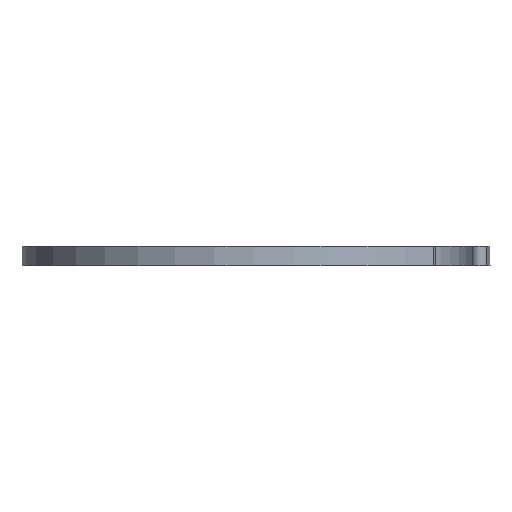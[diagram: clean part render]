
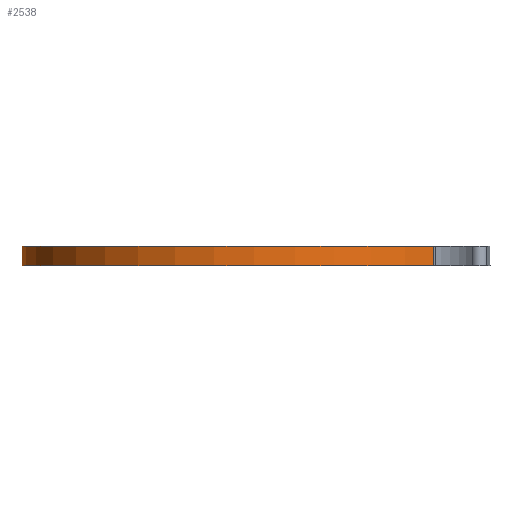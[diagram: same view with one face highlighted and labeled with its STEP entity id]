
A CAD part, left-side view. The second image highlights one B-rep face of the part: STEP entity #2538.
In plain terms, the highlighted cylindrical face has radius 61 mm (diameter 122 mm), a partial arc.
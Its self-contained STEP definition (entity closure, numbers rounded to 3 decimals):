
#396=CARTESIAN_POINT('',(0.,0.,0.));
#397=DIRECTION('',(0.,0.,1.));
#398=DIRECTION('',(0.653,-0.758,0.));
#399=AXIS2_PLACEMENT_3D('',#396,#397,#398);
#719=CARTESIAN_POINT('',(0.,0.,5.));
#720=DIRECTION('',(0.,0.,-1.));
#721=DIRECTION('',(-0.653,-0.758,0.));
#722=AXIS2_PLACEMENT_3D('',#719,#720,#721);
#1019=DIRECTION('',(0.,0.,-1.));
#1020=VECTOR('',#1019,5.);
#1021=CARTESIAN_POINT('',(-39.805,-46.223,5.));
#1022=LINE('',#1021,#1020);
#1033=DIRECTION('',(0.,0.,-1.));
#1034=VECTOR('',#1033,5.);
#1035=CARTESIAN_POINT('',(39.805,-46.223,5.));
#1036=LINE('',#1035,#1034);
#1947=CARTESIAN_POINT('',(-39.805,-46.223,0.));
#1948=VERTEX_POINT('',#1947);
#1949=CARTESIAN_POINT('',(39.805,-46.223,0.));
#1950=VERTEX_POINT('',#1949);
#1997=CARTESIAN_POINT('',(-39.805,-46.223,5.));
#1998=VERTEX_POINT('',#1997);
#1999=CARTESIAN_POINT('',(39.805,-46.223,5.));
#2000=VERTEX_POINT('',#1999);
#2526=CARTESIAN_POINT('',(0.,0.,0.));
#2527=DIRECTION('',(0.,0.,-1.));
#2528=DIRECTION('',(1.,0.,0.));
#2529=AXIS2_PLACEMENT_3D('',#2526,#2527,#2528);
#2530=CYLINDRICAL_SURFACE('',#2529,61.);
#2532=ORIENTED_EDGE('',*,*,#2531,.F.);
#2533=ORIENTED_EDGE('',*,*,#2403,.F.);
#2534=ORIENTED_EDGE('',*,*,#2518,.T.);
#2535=ORIENTED_EDGE('',*,*,#2274,.F.);
#2536=EDGE_LOOP('',(#2532,#2533,#2534,#2535));
#2537=FACE_OUTER_BOUND('',#2536,.F.);
#400=CIRCLE('',#399,61.);
#723=CIRCLE('',#722,61.);
#2274=EDGE_CURVE('',#1950,#1948,#400,.T.);
#2403=EDGE_CURVE('',#1998,#2000,#723,.T.);
#2518=EDGE_CURVE('',#1998,#1948,#1022,.T.);
#2531=EDGE_CURVE('',#2000,#1950,#1036,.T.);
#2538=ADVANCED_FACE('',(#2537),#2530,.T.);
